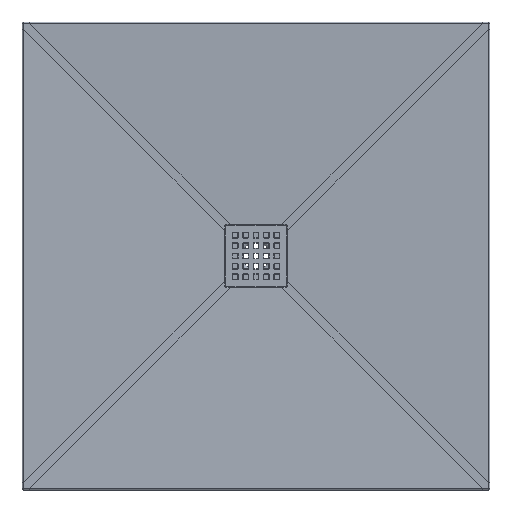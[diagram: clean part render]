
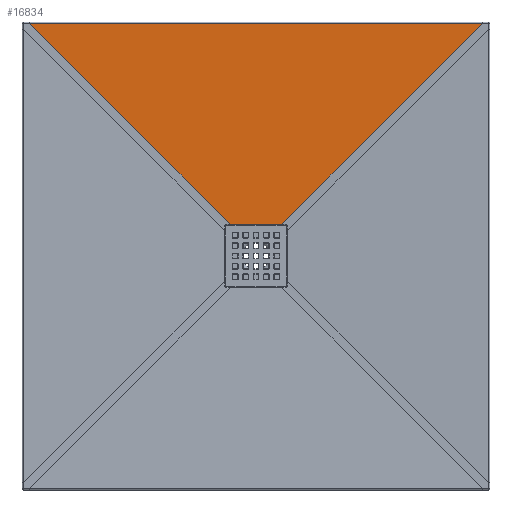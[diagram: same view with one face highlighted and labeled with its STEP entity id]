
A CAD part, top view. The second image highlights one B-rep face of the part: STEP entity #16834.
In plain terms, the highlighted free-form (B-spline) face has degree [1, 1] with [2, 2] control points.
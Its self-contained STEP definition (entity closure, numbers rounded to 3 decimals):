
#396 = EDGE_CURVE ( 'NONE', #8205, #22748, #36661, .T. ) ;
#414 = CARTESIAN_POINT ( 'NONE',  ( 53.265, 447.923, -0.08 ) ) ;
#1775 = CARTESIAN_POINT ( 'NONE',  ( 436.393, 447.923, -0.08 ) ) ;
#2607 = CARTESIAN_POINT ( 'NONE',  ( 235.263, 246.793, -7.816 ) ) ;
#2766 = CARTESIAN_POINT ( 'NONE',  ( -51.682, 63.212, -14.876 ) ) ;
#4293 = CARTESIAN_POINT ( 'NONE',  ( -141.618, 153.148, -11.417 ) ) ;
#4898 = CARTESIAN_POINT ( 'NONE',  ( 141.618, 153.148, -11.417 ) ) ;
#4971 = CARTESIAN_POINT ( 'NONE',  ( -49.432, 60.962, -14.963 ) ) ;
#5654 = CARTESIAN_POINT ( 'NONE',  ( 65.18, 76.71, -14.357 ) ) ;
#6157 = CARTESIAN_POINT ( 'NONE',  ( -436.393, 447.923, -0.08 ) ) ;
#6803 = CARTESIAN_POINT ( 'NONE',  ( -341.323, 352.853, -3.736 ) ) ;
#7185 = CARTESIAN_POINT ( 'NONE',  ( -174.366, 185.896, -10.158 ) ) ;
#7764 = CARTESIAN_POINT ( 'NONE',  ( -56.503, 68.033, -14.691 ) ) ;
#7975 = CARTESIAN_POINT ( 'NONE',  ( 106.741, 118.271, -12.759 ) ) ;
#8128 = CARTESIAN_POINT ( 'NONE',  ( 436.393, 447.923, -0.08 ) ) ;
#8164 = CARTESIAN_POINT ( 'NONE',  ( 384.866, 396.396, -2.062 ) ) ;
#8205 = VERTEX_POINT ( 'NONE', #12311 ) ;
#10420 = CARTESIAN_POINT ( 'NONE',  ( -306.06, 317.59, -5.093 ) ) ;
#10637 = CARTESIAN_POINT ( 'NONE',  ( 49.432, 60.962, -14.963 ) ) ;
#10792 = CARTESIAN_POINT ( 'NONE',  ( -117.881, 129.411, -12.33 ) ) ;
#11082 = CARTESIAN_POINT ( 'NONE',  ( -4.127, 60.962, -14.963 ) ) ;
#11101 = VERTEX_POINT ( 'NONE', #8128 ) ;
#12311 = CARTESIAN_POINT ( 'NONE',  ( -49.432, 60.962, -14.963 ) ) ;
#12694 = CARTESIAN_POINT ( 'NONE',  ( -282.78, 294.31, -5.988 ) ) ;
#13883 = CARTESIAN_POINT ( 'NONE',  ( 306.06, 317.59, -5.093 ) ) ;
#14066 = CARTESIAN_POINT ( 'NONE',  ( 51.682, 63.212, -14.876 ) ) ;
#14093 = ORIENTED_EDGE ( 'NONE', *, *, #34602, .T. ) ;
#14249 = CARTESIAN_POINT ( 'NONE',  ( 56.503, 68.033, -14.691 ) ) ;
#15569 = CARTESIAN_POINT ( 'NONE',  ( -212.072, 223.602, -8.708 ) ) ;
#16527 = CARTESIAN_POINT ( 'NONE',  ( 86.175, 97.705, -13.55 ) ) ;
#16599 = CARTESIAN_POINT ( 'NONE',  ( -37.082, 60.962, -14.963 ) ) ;
#16834 = ADVANCED_FACE ( 'NONE', ( #21562 ), #33401, .T. ) ;
#18808 = CARTESIAN_POINT ( 'NONE',  ( -156.591, 168.121, -10.842 ) ) ;
#19196 = CARTESIAN_POINT ( 'NONE',  ( -436.393, 447.923, -0.08 ) ) ;
#19668 = CARTESIAN_POINT ( 'NONE',  ( 49.432, 60.962, -14.963 ) ) ;
#19781 = CARTESIAN_POINT ( 'NONE',  ( 212.072, 223.602, -8.708 ) ) ;
#19951 = CARTESIAN_POINT ( 'NONE',  ( -86.175, 97.705, -13.55 ) ) ;
#19978 = CARTESIAN_POINT ( 'NONE',  ( 117.881, 129.411, -12.33 ) ) ;
#20170 = CARTESIAN_POINT ( 'NONE',  ( 419.274, 430.804, -0.738 ) ) ;
#21435 = B_SPLINE_CURVE_WITH_KNOTS ( 'NONE', 3,
 ( #19196, #21682, #36028, #6803, #10420, #12694, #27570, #33299, #15569, #24323, #7185, #18808, #4293, #25655, #10792, #22429, #37365, #19951, #28717, #36975, #7764, #2766, #22606 ),
 .UNSPECIFIED., .F., .F.,
 ( 4, 1, 1, 1, 1, 1, 1, 1, 1, 1, 1, 1, 1, 1, 1, 1, 1, 1, 1, 1, 4 ),
 ( 2.938, 75.597, 148.971, 187.743, 225.263, 247.776, 293.621, 321.055, 346.203, 373.637, 401.071, 421.647, 437.182, 451.73, 471.734, 484.463, 497.193, 513.559, 529.925, 540.836, 550.387 ),
 .UNSPECIFIED. ) ;
#21562 = FACE_OUTER_BOUND ( 'NONE', #33606, .T. ) ;
#21598 = CARTESIAN_POINT ( 'NONE',  ( 49.432, 60.962, -14.963 ) ) ;
#21682 = CARTESIAN_POINT ( 'NONE',  ( -419.274, 430.804, -0.738 ) ) ;
#22429 = CARTESIAN_POINT ( 'NONE',  ( -106.741, 118.271, -12.759 ) ) ;
#22606 = CARTESIAN_POINT ( 'NONE',  ( -49.432, 60.962, -14.963 ) ) ;
#22748 = VERTEX_POINT ( 'NONE', #21598 ) ;
#22821 = CARTESIAN_POINT ( 'NONE',  ( 174.366, 185.896, -10.158 ) ) ;
#23848 = B_SPLINE_CURVE_WITH_KNOTS ( 'NONE', 3,
 ( #1775, #37701, #414, #31893, #6157 ),
 .UNSPECIFIED., .F., .F.,
 ( 4, 1, 4 ),
 ( 0., 276.597, 872.786 ),
 .UNSPECIFIED. ) ;
#24070 = ORIENTED_EDGE ( 'NONE', *, *, #396, .T. ) ;
#24323 = CARTESIAN_POINT ( 'NONE',  ( -193.219, 204.749, -9.433 ) ) ;
#25630 = VERTEX_POINT ( 'NONE', #32716 ) ;
#25655 = CARTESIAN_POINT ( 'NONE',  ( -129.682, 141.212, -11.876 ) ) ;
#27570 = CARTESIAN_POINT ( 'NONE',  ( -257.833, 269.363, -6.948 ) ) ;
#28182 = CARTESIAN_POINT ( 'NONE',  ( 257.833, 269.363, -6.948 ) ) ;
#28257 = CARTESIAN_POINT ( 'NONE',  ( 28.827, 60.962, -14.963 ) ) ;
#28376 = CARTESIAN_POINT ( 'NONE',  ( 436.393, 447.923, -0.08 ) ) ;
#28563 = CARTESIAN_POINT ( 'NONE',  ( 341.323, 352.853, -3.736 ) ) ;
#28717 = CARTESIAN_POINT ( 'NONE',  ( -75.463, 86.993, -13.962 ) ) ;
#29509 = EDGE_CURVE ( 'NONE', #11101, #22748, #30236, .T. ) ;
#29764 = CARTESIAN_POINT ( 'NONE',  ( 436.394, 447.924, -0.08 ) ) ;
#30236 = B_SPLINE_CURVE_WITH_KNOTS ( 'NONE', 3,
 ( #28376, #20170, #8164, #28563, #13883, #31590, #28182, #2607, #19781, #34098, #22821, #31017, #4898, #31409, #19978, #7975, #31773, #16527, #33907, #5654, #14249, #14066, #10637 ),
 .UNSPECIFIED., .F., .F.,
 ( 4, 1, 1, 1, 1, 1, 1, 1, 1, 1, 1, 1, 1, 1, 1, 1, 1, 1, 1, 1, 4 ),
 ( 2.938, 75.597, 148.971, 187.743, 225.263, 247.776, 293.621, 321.055, 346.203, 373.637, 401.071, 421.647, 437.182, 451.73, 471.734, 484.463, 497.193, 513.559, 529.925, 540.836, 550.387 ),
 .UNSPECIFIED. ) ;
#30490 = CARTESIAN_POINT ( 'NONE',  ( -436.394, 447.924, -0.08 ) ) ;
#30671 = ORIENTED_EDGE ( 'NONE', *, *, #29509, .F. ) ;
#31017 = CARTESIAN_POINT ( 'NONE',  ( 156.591, 168.121, -10.842 ) ) ;
#31409 = CARTESIAN_POINT ( 'NONE',  ( 129.682, 141.212, -11.876 ) ) ;
#31590 = CARTESIAN_POINT ( 'NONE',  ( 282.78, 294.31, -5.988 ) ) ;
#31773 = CARTESIAN_POINT ( 'NONE',  ( 96.03, 107.559, -13.171 ) ) ;
#31893 = CARTESIAN_POINT ( 'NONE',  ( -237.663, 447.923, -0.08 ) ) ;
#32716 = CARTESIAN_POINT ( 'NONE',  ( -436.393, 447.923, -0.08 ) ) ;
#33181 = CARTESIAN_POINT ( 'NONE',  ( 59.391, 60.961, -14.963 ) ) ;
#33299 = CARTESIAN_POINT ( 'NONE',  ( -235.263, 246.793, -7.816 ) ) ;
#33401 = B_SPLINE_SURFACE_WITH_KNOTS ( 'NONE', 1, 1, ( 
 ( #29764, #33181 ),
 ( #30490, #35910 ) ),
 .UNSPECIFIED., .F., .F., .F.,
 ( 2, 2 ),
 ( 2, 2 ),
 ( 0., 876.833 ),
 ( 0., 1. ),
 .UNSPECIFIED. ) ;
#33606 = EDGE_LOOP ( 'NONE', ( #24070, #30671, #14093, #37688 ) ) ;
#33907 = CARTESIAN_POINT ( 'NONE',  ( 75.463, 86.993, -13.962 ) ) ;
#34098 = CARTESIAN_POINT ( 'NONE',  ( 193.219, 204.749, -9.433 ) ) ;
#34602 = EDGE_CURVE ( 'NONE', #11101, #25630, #23848, .T. ) ;
#35910 = CARTESIAN_POINT ( 'NONE',  ( -59.391, 60.961, -14.963 ) ) ;
#36028 = CARTESIAN_POINT ( 'NONE',  ( -384.866, 396.396, -2.062 ) ) ;
#36661 = B_SPLINE_CURVE_WITH_KNOTS ( 'NONE', 3,
 ( #4971, #16599, #11082, #28257, #19668 ),
 .UNSPECIFIED., .F., .F.,
 ( 4, 1, 4 ),
 ( 0., 37.05, 98.863 ),
 .UNSPECIFIED. ) ;
#36975 = CARTESIAN_POINT ( 'NONE',  ( -65.18, 76.71, -14.357 ) ) ;
#37365 = CARTESIAN_POINT ( 'NONE',  ( -96.03, 107.559, -13.171 ) ) ;
#37482 = EDGE_CURVE ( 'NONE', #25630, #8205, #21435, .T. ) ;
#37688 = ORIENTED_EDGE ( 'NONE', *, *, #37482, .T. ) ;
#37701 = CARTESIAN_POINT ( 'NONE',  ( 344.194, 447.923, -0.08 ) ) ;
